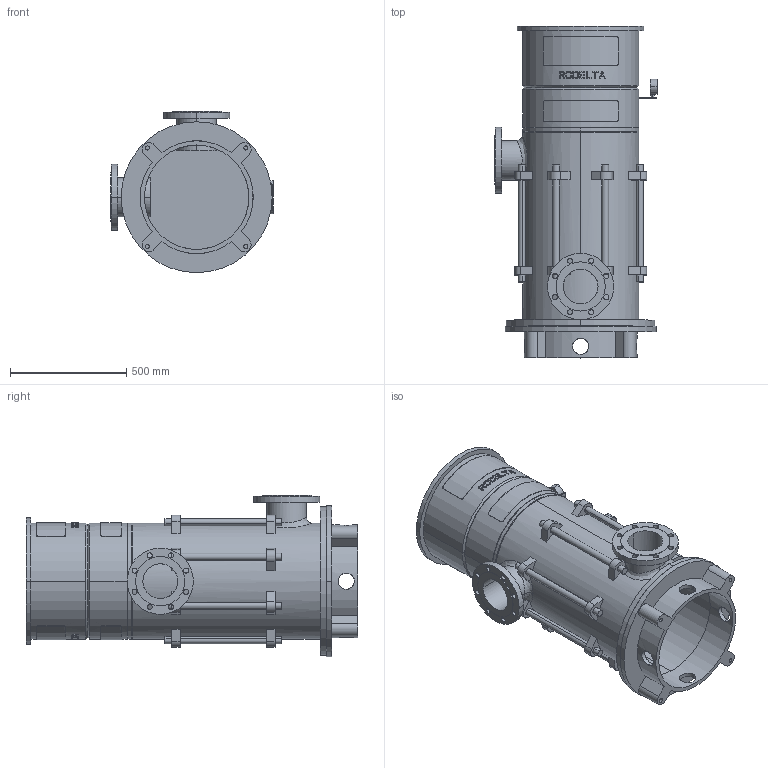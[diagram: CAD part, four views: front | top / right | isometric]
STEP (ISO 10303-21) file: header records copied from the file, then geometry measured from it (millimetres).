
FILE_DESCRIPTION((''),'2;1');
FILE_NAME('LS6_3TR_0GR_ABOVE_30KW','2023-08-15T',('Lyritlocal'),(''),'PRO/ENGINEER BY PARAMETRIC TECHNOLOGY CORPORATION, 2016360','PRO/ENGINEER BY PARAMETRIC TECHNOLOGY CORPORATION, 2016360','');
FILE_SCHEMA(('CONFIG_CONTROL_DESIGN'));
Length unit declared in the file: millimetre
Products named in the file (1): LS6_3TR_0GR_ABOVE_30KW
Bounding box: 700 x 1429 x 695 mm (x, y, z)
Volume: 48051206.2 mm3; surface area: 6574511.4 mm2
Topology: 3 solids, 7 shells, 684 faces, 1769 edges, 1174 vertices
Faces by surface type: plane 422, cylinder 242, cone 12, bspline 8
Entity records: 22646 total; most frequent: CARTESIAN_POINT 6026, ORIENTED_EDGE 3522, DIRECTION 3275, EDGE_CURVE 1769, AXIS2_PLACEMENT_3D 1237, VERTEX_POINT 1174, EDGE_LOOP 827, VECTOR 801
